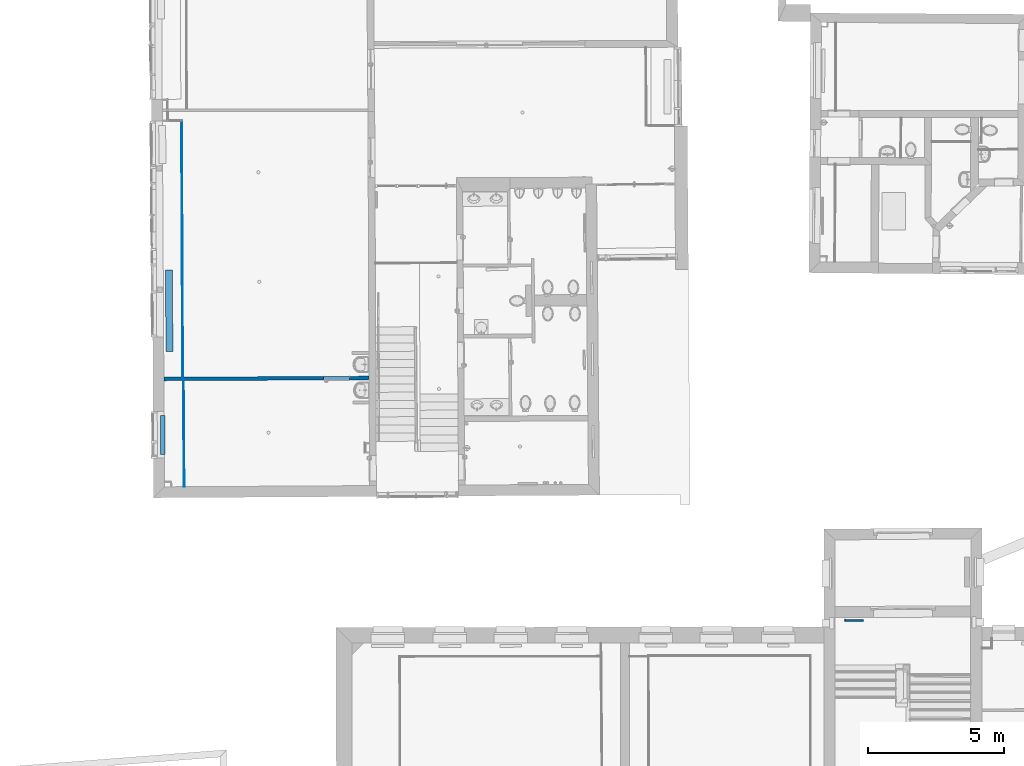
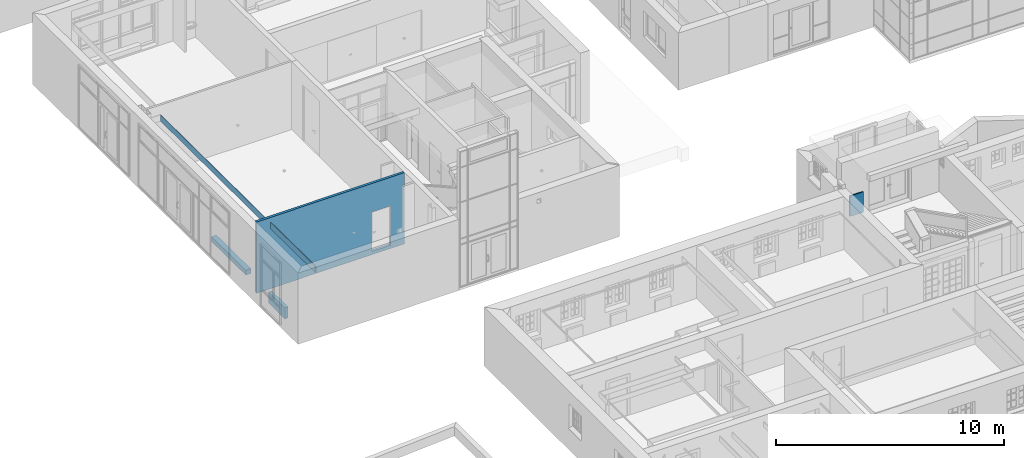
# One storey, part 30 of 196: 6 walls, 1 opening.
"""IFC2X3 building model written with IfcOpenShell, lengths in metres."""

from ifc_helpers import new_model, entity, si_unit, converted_unit, derived_unit, money_unit, direction, frame, origin_with_axes, origin_2d_with_axis, place, context, subcontext, project, spatial, polyline, rectangle, outline, extrude, material, layer, layer_set, layer_usage, type_object, element, save


model = new_model("IFC2X3")

# Units and contexts
model_context = context("Model", 3, precision=1e-05, world=origin_with_axes(), true_north=direction((0.0, 1.0)))
body_context = subcontext(model_context, "Body", "Model", "MODEL_VIEW")
ifc_project = project(units=[si_unit("LENGTHUNIT", "METRE"), si_unit("AREAUNIT", "SQUARE_METRE"), si_unit("VOLUMEUNIT", "CUBIC_METRE"), converted_unit("PLANEANGLEUNIT", "DEGREE", entity("IfcPlaneAngleMeasure", 0.0174532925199), si_unit("PLANEANGLEUNIT", "RADIAN"), dimensions=[0, 0, 0, 0, 0, 0, 0]), money_unit("EUR"), converted_unit("TIMEUNIT", "Year", entity("IfcTimeMeasure", 31556926.0), si_unit("TIMEUNIT", "SECOND"), dimensions=[0, 0, 1, 0, 0, 0, 0]), si_unit("MASSUNIT", "GRAM", prefix="KILO"), si_unit("THERMODYNAMICTEMPERATUREUNIT", "DEGREE_CELSIUS"), si_unit("LUMINOUSINTENSITYUNIT", "LUMEN"), si_unit("ENERGYUNIT", "JOULE", prefix="MEGA"), derived_unit("THERMALCONDUCTANCEUNIT", [(si_unit("POWERUNIT", "WATT"), 1), (si_unit("LENGTHUNIT", "METRE"), -1), (si_unit("THERMODYNAMICTEMPERATUREUNIT", "KELVIN"), -1)]), derived_unit("SPECIFICHEATCAPACITYUNIT", [(si_unit("ENERGYUNIT", "JOULE"), 1), (si_unit("MASSUNIT", "GRAM", prefix="KILO"), -1), (si_unit("THERMODYNAMICTEMPERATUREUNIT", "KELVIN"), -1)]), derived_unit("MASSDENSITYUNIT", [(si_unit("MASSUNIT", "GRAM", prefix="KILO"), 1), (si_unit("VOLUMEUNIT", "CUBIC_METRE"), -1)])], contexts=[model_context])

# Site, building, storey
site_placement = place(None, origin_with_axes())
site = spatial("IfcSite", under=ifc_project, at=site_placement, Name="Gelände", CompositionType="ELEMENT")
building_placement = place(site_placement, origin_with_axes())
building = spatial("IfcBuilding", under=site, at=building_placement, Name="Gebäude", CompositionType="ELEMENT")
storey_placement = place(building_placement, frame((0.0, 0.0, -3.0), z_axis=(0.0, 0.0, 1.0), x_axis=(1.0, 0.0, 0.0)))
storey = spatial("IfcBuildingStorey", under=building, at=storey_placement, Name="KELLERGESCHOSS", CompositionType="ELEMENT", Elevation=-3.0)

# Walls
ifc_material_1 = material(Name="43_Gipskarton")
ifc_layer_1 = layer(ifc_material_1, 0.03, ventilated="UNKNOWN")
ifc_layer_set_1 = layer_set([ifc_layer_1], Name="43_Gipskarton 0.03")
ifc_layer_usage_1 = layer_usage(ifc_layer_set_1, "AXIS2", "NEGATIVE", 0.03)
wall_type_1 = type_object("IfcWallType", Name="43_Gipskarton 30", PredefinedType="ELEMENTEDWALL")
wall_1_placement = place(storey_placement, frame((-33.7354775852, 35.1335517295, 3.47), z_axis=(0.0, 0.0, 1.0), x_axis=(0.00635870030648, -0.999979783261, 0.0)))
element("IfcWallStandardCase", 1, at=wall_1_placement, inside=storey, type_object=wall_type_1, material=ifc_layer_usage_1, Name="Wand-039", ObjectType="ELEMENTEDWALL", context=body_context, shape_type="SweptSolid", body=[
    extrude(outline(polyline([(0.0, 0.0), (3.8857685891, 0.0), (3.88577978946, 0.03), (4.20405141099e-05, 0.03), (0.0, 0.0)])), origin_with_axes(), (0.0, 0.0, 1.0), 0.34),
])
ifc_layer_usage_2 = layer_usage(ifc_layer_set_1, "AXIS2", "NEGATIVE", 0.0)
wall_2_placement = place(storey_placement, frame((-33.7610337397, 35.1334250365, 3.47), z_axis=(0.0, 0.0, 1.0), x_axis=(-0.00445330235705, 0.999990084, 0.0)))
element("IfcWallStandardCase", 2, at=wall_2_placement, inside=storey, type_object=wall_type_1, material=ifc_layer_usage_2, Name="Wand-039", ObjectType="ELEMENTEDWALL", context=body_context, shape_type="SweptSolid", body=[
    extrude(outline(polyline([(0.130015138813, -0.03), (9.54345720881, -0.03), (9.5134255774, 0.0), (0.130000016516, 0.0), (0.130015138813, -0.03)])), origin_with_axes(), (0.0, 0.0, 1.0), 0.33),
])
ifc_material_2 = material(Name="01_ALLGEMEIN - BAUTEIL")
ifc_layer_2 = layer(ifc_material_2, 0.065, ventilated="UNKNOWN")
ifc_layer_set_2 = layer_set([ifc_layer_2], Name="01_ALLGEMEIN - BAUTEIL 0.065")
ifc_layer_usage_3 = layer_usage(ifc_layer_set_2, "AXIS2", "NEGATIVE", 0.065)
wall_type_2 = type_object("IfcWallType", Name="01_ALLGEMEIN - BAUTEIL 65", PredefinedType="ELEMENTEDWALL")
wall_3_placement = place(storey_placement, frame((-9.48910738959, 26.3164527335, 0.964533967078), z_axis=(0.0, 0.0, 1.0), x_axis=(0.999922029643, -0.0124873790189, 0.0)))
element("IfcWallStandardCase", 3, at=wall_3_placement, inside=storey, type_object=wall_type_2, material=ifc_layer_usage_3, Name="Wand-036", ObjectType="ELEMENTEDWALL", context=body_context, shape_type="SweptSolid", body=[
    extrude(outline(polyline([(0.0, 0.0), (0.683706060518, 0.0), (0.683706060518, 0.065), (0.0, 0.065), (0.0, 0.0)])), origin_with_axes(), (0.0, 0.0, 1.0), 1.095133),
])
ifc_layer_3 = layer(ifc_material_2, 0.255, ventilated="UNKNOWN")
ifc_layer_set_3 = layer_set([ifc_layer_3], Name="01_ALLGEMEIN - BAUTEIL 0.255")
ifc_layer_usage_4 = layer_usage(ifc_layer_set_3, "AXIS2", "NEGATIVE", 0.255)
wall_type_3 = type_object("IfcWallType", Name="01_ALLGEMEIN - BAUTEIL 255", PredefinedType="ELEMENTEDWALL")
wall_4_placement = place(storey_placement, frame((-34.1089333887, 36.2006704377, 0.548104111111), z_axis=(0.0, 0.0, 1.0), x_axis=(-0.00647544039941, 0.999979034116, 0.0)))
element("IfcWallStandardCase", 4, at=wall_4_placement, inside=storey, type_object=wall_type_3, material=ifc_layer_usage_4, Name="Wand-030", ObjectType="ELEMENTEDWALL", context=body_context, shape_type="SweptSolid", body=[
    extrude(outline(polyline([(0.0, 0.0), (2.99264464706, 0.0), (2.99264464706, 0.255), (0.0, 0.255), (0.0, 0.0)])), origin_with_axes(), (0.0, 0.0, 1.0), 0.260503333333),
])
ifc_layer_4 = layer(ifc_material_2, 0.16, ventilated="UNKNOWN")
ifc_layer_set_4 = layer_set([ifc_layer_4], Name="01_ALLGEMEIN - BAUTEIL 0.16")
ifc_layer_usage_5 = layer_usage(ifc_layer_set_4, "AXIS2", "NEGATIVE", 0.16)
wall_type_4 = type_object("IfcWallType", Name="01_ALLGEMEIN - BAUTEIL 160", PredefinedType="ELEMENTEDWALL")
wall_5_placement = place(storey_placement, frame((-34.401856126, 32.4356652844, 0.554480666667), z_axis=(0.0, 0.0, 1.0), x_axis=(-1.36711812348e-06, 0.999999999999, 0.0)))
element("IfcWallStandardCase", 5, at=wall_5_placement, inside=storey, type_object=wall_type_4, material=ifc_layer_usage_5, Name="Wand-030", ObjectType="ELEMENTEDWALL", context=body_context, shape_type="SweptSolid", body=[
    extrude(outline(polyline([(0.0, 0.0), (1.41702014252, 0.0), (1.41702014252, 0.16), (0.0, 0.16), (0.0, 0.0)])), origin_with_axes(), (0.0, 0.0, 1.0), 0.59192),
])

# Wall, opening
ifc_material_3 = material(Name="05_ALLGEMEIN - TRAGENDE BAUTEILE")
ifc_layer_5 = layer(ifc_material_3, 0.13, ventilated="UNKNOWN")
ifc_layer_set_5 = layer_set([ifc_layer_5], Name="05_ALLGEMEIN - TRAGENDE BAUTEILE 0.13")
ifc_layer_usage_6 = layer_usage(ifc_layer_set_5, "AXIS2", "NEGATIVE", 0.0)
wall_type_5 = type_object("IfcWallType", Name="05_ALLGEMEIN - TRAGENDE BAUTEILE 130", PredefinedType="ELEMENTEDWALL")
wall_6_placement = place(storey_placement, frame((-26.6717449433, 35.1685697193, 0.25), z_axis=(0.0, 0.0, 1.0), x_axis=(-0.999987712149, -0.00495737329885, 0.0)))
wall_6 = element("IfcWallStandardCase", 6, at=wall_6_placement, inside=storey, type_object=wall_type_5, material=ifc_layer_usage_6, Name="Wand-031", ObjectType="ELEMENTEDWALL", context=body_context, shape_type="SweptSolid", body=[
    extrude(outline(polyline([(0.249928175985, -0.13), (7.76824490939, -0.13), (7.76812695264, 0.0), (0.250000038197, 0.0), (0.249928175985, -0.13)])), origin_with_axes(), (0.0, 0.0, 1.0), 3.81),
])
opening_placement = place(wall_6_placement, frame((1.44340088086, 0.0, 0.171025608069), z_axis=(0.0, 0.0, 1.0), x_axis=(1.0, 0.0, 0.0)))
element("IfcOpeningElement", 7, at=opening_placement, cuts=wall_6, Name="Tür-022", context=body_context, shape_type="SweptSolid", body=[
    extrude(rectangle(XDim=0.945781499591, YDim=2.0989385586, at=origin_2d_with_axis()), frame((0.0, -0.13, 1.0494692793), z_axis=(0.0, -1.0, 0.0), x_axis=(-1.0, 0.0, 0.0)), (0.0, 0.0, -1.0), 0.39),
])

save(model, "model.ifc")
